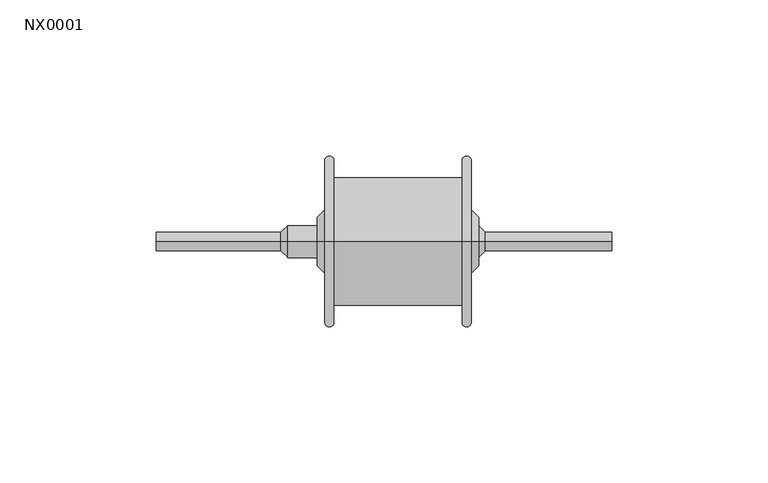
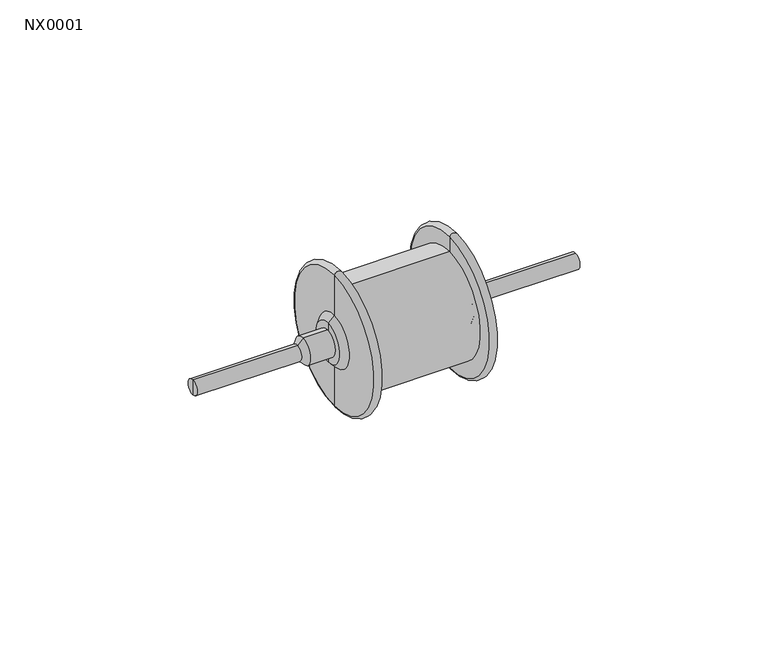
"""IFC4 building model written with IfcOpenShell, lengths in millimetres: proxy geometry, КНС_ИскровойПромежуток_DKC : NX0001."""

from ifc_helpers import new_model, si_unit, point, frame, origin, place, context, project, spatial, polyline, circle_curve, ellipse_curve, trimmed, source, transform, mapped, element, save
from ifc_brep_helpers import plane_surface, cylinder_surface, revolved_surface, advanced_brep


def nx0001_94aa2309(model_context):
    return source(origin(), model_context, "Body", "AdvancedBrep", [
        advanced_brep(
        [(100.9668153, 0.0, -10.2056236), (100.9668153, 0.0, 10.2056236), (103.3075587, 0.0, 7.8648802), (103.3075587, 0.0, -7.8648802), (100.9668153, 0.0, -26.4055674), (100.9668153, 0.0, 26.4055674), (97.9987027, 0.0, -26.4055674), (97.9987027, 0.0, 26.4055674), (97.9987027, 0.0, -20.5005938), (97.9987027, 0.0, 20.5005938), (56.9821702, 0.0, -20.5005938), (56.9821702, 0.0, 20.5005938), (56.9821702, 0.0, -26.4055674), (56.9821702, 0.0, 26.4055674), (54.0140576, 0.0, -26.4055674), (54.0140576, 0.0, 26.4055674), (54.0140576, 0.0, -10.2056236), (54.0140576, 0.0, 10.2056236), (51.6733142, 0.0, -7.8648802), (51.6733142, 0.0, 7.8648802), (51.6733142, 0.0, 0.0), (103.3075587, 0.0, 0.0)],
        [
            (0, 1, circle_curve(frame((100.9668153, 0.0, 0.0), z_axis=(1.0, 0.0, 0.0), x_axis=(0.0, 0.0, 1.0)), 10.2056236)),
            (1, 2),
            (2, 3, circle_curve(frame((103.3075587, 0.0, 0.0), z_axis=(-1.0, 0.0, 0.0), x_axis=(0.0, 0.0, 1.0)), 7.8648802)),
            (3, 0),
            (1, 0, circle_curve(frame((100.9668153, 0.0, 0.0), z_axis=(1.0, 0.0, 0.0), x_axis=(0.0, 0.0, 1.0)), 10.2056236)),
            (3, 2, circle_curve(frame((103.3075587, 0.0, 0.0), z_axis=(-1.0, 0.0, 0.0), x_axis=(0.0, 0.0, 1.0)), 7.8648802)),
            (4, 5, circle_curve(frame((100.9668153, 0.0, 0.0), z_axis=(1.0, 0.0, 0.0), x_axis=(0.0, 0.0, 1.0)), 26.4055674)),
            (5, 1),
            (0, 4),
            (5, 4, circle_curve(frame((100.9668153, 0.0, 0.0), z_axis=(1.0, 0.0, 0.0), x_axis=(0.0, 0.0, 1.0)), 26.4055674)),
            (6, 7, circle_curve(frame((97.9987027, 0.0, 0.0), z_axis=(1.0, 0.0, 0.0), x_axis=(0.0, 0.0, 1.0)), 26.4055674)),
            (7, 5, circle_curve(frame((99.482759, 0.0, 25.9475608), z_axis=(0.0, 1.0, 0.0), x_axis=(1.0, 0.0, 0.0)), 1.5531236)),
            (4, 6, circle_curve(frame((99.482759, 0.0, -25.9475608), z_axis=(0.0, 1.0, 0.0), x_axis=(1.0, 0.0, 0.0)), 1.5531236)),
            (7, 6, circle_curve(frame((97.9987027, 0.0, 0.0), z_axis=(1.0, 0.0, 0.0), x_axis=(0.0, 0.0, 1.0)), 26.4055674)),
            (8, 9, circle_curve(frame((97.9987027, 0.0, 0.0), z_axis=(1.0, 0.0, 0.0), x_axis=(0.0, 0.0, 1.0)), 20.5005938)),
            (9, 7),
            (6, 8),
            (9, 8, circle_curve(frame((97.9987027, 0.0, 0.0), z_axis=(1.0, 0.0, 0.0), x_axis=(0.0, 0.0, 1.0)), 20.5005938)),
            (10, 11, circle_curve(frame((56.9821702, 0.0, 0.0), z_axis=(1.0, 0.0, 0.0), x_axis=(0.0, 0.0, 1.0)), 20.5005938)),
            (11, 9),
            (8, 10),
            (11, 10, circle_curve(frame((56.9821702, 0.0, 0.0), z_axis=(1.0, 0.0, 0.0), x_axis=(0.0, 0.0, 1.0)), 20.5005938)),
            (12, 13, circle_curve(frame((56.9821702, 0.0, 0.0), z_axis=(1.0, 0.0, 0.0), x_axis=(0.0, 0.0, 1.0)), 26.4055674)),
            (13, 11),
            (10, 12),
            (13, 12, circle_curve(frame((56.9821702, 0.0, 0.0), z_axis=(1.0, 0.0, 0.0), x_axis=(0.0, 0.0, 1.0)), 26.4055674)),
            (14, 15, circle_curve(frame((54.0140576, 0.0, 0.0), z_axis=(1.0, 0.0, 0.0), x_axis=(0.0, 0.0, 1.0)), 26.4055674)),
            (15, 13, circle_curve(frame((55.4981139, 0.0, 25.9475608), z_axis=(0.0, 1.0, 0.0), x_axis=(-1.0, 0.0, 0.0)), 1.5531236)),
            (12, 14, circle_curve(frame((55.4981139, 0.0, -25.9475608), z_axis=(0.0, 1.0, 0.0), x_axis=(-1.0, 0.0, 0.0)), 1.5531236)),
            (15, 14, circle_curve(frame((54.0140576, 0.0, 0.0), z_axis=(1.0, 0.0, 0.0), x_axis=(0.0, 0.0, 1.0)), 26.4055674)),
            (16, 17, circle_curve(frame((54.0140576, 0.0, 0.0), z_axis=(1.0, 0.0, 0.0), x_axis=(0.0, 0.0, 1.0)), 10.2056236)),
            (17, 15),
            (14, 16),
            (17, 16, circle_curve(frame((54.0140576, 0.0, 0.0), z_axis=(1.0, 0.0, 0.0), x_axis=(0.0, 0.0, 1.0)), 10.2056236)),
            (18, 19, circle_curve(frame((51.6733142, 0.0, 0.0), z_axis=(1.0, 0.0, 0.0), x_axis=(0.0, 0.0, 1.0)), 7.8648802)),
            (19, 17),
            (16, 18),
            (19, 18, circle_curve(frame((51.6733142, 0.0, 0.0), z_axis=(1.0, 0.0, 0.0), x_axis=(0.0, 0.0, 1.0)), 7.8648802)),
            (20, 19),
            (18, 20),
            (2, 21),
            (21, 3),
        ],
        [
            revolved_surface(polyline([(103.3075587, 0.0, 7.8648802), (100.9668153, 0.0, 10.2056236)]), (-1351.9903051, 0.0, 0.0), (-1.0, 0.0, 0.0)),
            plane_surface(frame((100.9668153, 0.0, 0.0), z_axis=(1.0, 0.0, 0.0), x_axis=(0.0, 0.0, 1.0))),
            revolved_surface(trimmed(ellipse_curve(frame((99.482759, 0.0, 25.9475608), z_axis=(0.0, -1.0, 0.0), x_axis=(1.0, 0.0, 0.0)), 1.5531236, 1.5531236), [point((100.9668153, 0.0, 26.4055674))], [point((97.9987027, 0.0, 26.4055674))], True, "CARTESIAN"), (-1351.9903051, 0.0, 0.0), (-1.0, 0.0, 0.0)),
            plane_surface(frame((97.9987027, 0.0, 0.0), z_axis=(-1.0, 0.0, 0.0), x_axis=(0.0, 0.0, 1.0))),
            cylinder_surface(frame((-1351.9903051, 0.0, 0.0), z_axis=(-1.0, 0.0, 0.0), x_axis=(0.0, 0.0, 1.0)), 20.5005938),
            plane_surface(frame((56.9821702, 0.0, 0.0), z_axis=(1.0, 0.0, 0.0), x_axis=(0.0, 0.0, 1.0))),
            revolved_surface(trimmed(ellipse_curve(frame((55.4981139, 0.0, 25.9475608), z_axis=(0.0, -1.0, 0.0), x_axis=(-1.0, 0.0, 0.0)), 1.5531236, 1.5531236), [point((56.9821702, 0.0, 26.4055674))], [point((54.0140576, 0.0, 26.4055674))], True, "CARTESIAN"), (-1351.9903051, 0.0, 0.0), (-1.0, 0.0, 0.0)),
            plane_surface(frame((54.0140576, 0.0, 0.0), z_axis=(-1.0, 0.0, 0.0), x_axis=(0.0, 0.0, 1.0))),
            revolved_surface(polyline([(54.0140576, 0.0, 10.2056236), (51.6733142, 0.0, 7.8648802)]), (-1351.9903051, 0.0, 0.0), (-1.0, 0.0, 0.0)),
            plane_surface(frame((51.6733142, 0.0, 0.0), z_axis=(-1.0, 0.0, 0.0), x_axis=(0.0, 0.0, 1.0))),
            plane_surface(frame((103.3075587, 0.0, 0.0), z_axis=(1.0, 0.0, 0.0), x_axis=(0.0, 0.0, 1.0))),
        ],
        [
            (0, [[1, 2, 3, 4]]),
            (0, [[5, -4, 6, -2]]),
            (1, [[7, 8, -1, 9]]),
            (1, [[10, -9, -5, -8]]),
            (2, [[11, 12, -7, 13]]),
            (2, [[14, -13, -10, -12]]),
            (3, [[15, 16, -11, 17]]),
            (3, [[18, -17, -14, -16]]),
            (4, [[19, 20, -15, 21]]),
            (4, [[22, -21, -18, -20]]),
            (5, [[23, 24, -19, 25]]),
            (5, [[26, -25, -22, -24]]),
            (6, [[27, 28, -23, 29]]),
            (6, [[30, -29, -26, -28]]),
            (7, [[31, 32, -27, 33]]),
            (7, [[34, -33, -30, -32]]),
            (8, [[35, 36, -31, 37]]),
            (8, [[38, -37, -34, -36]]),
            (9, [[39, -35, 40]]),
            (9, [[-40, -38, -39]]),
            (10, [[-3, 41, 42]]),
            (10, [[-6, -42, -41]]),
        ],
    ),
        advanced_brep(
        [(0.0, 0.0, 0.0), (0.0, 0.0, 3.0), (0.0, 0.0, -3.0), (146.0, 0.0, -3.0), (146.0, 0.0, 3.0), (146.0, 0.0, 0.0), (105.4454372, 0.0, -3.0), (105.4454372, 0.0, 3.0), (103.3075587, 0.0, -5.1378785), (103.3075587, 0.0, 5.1378785), (42.1378785, 0.0, -5.1378785), (42.1378785, 0.0, 5.1378785), (40.0, 0.0, -3.0), (40.0, 0.0, 3.0)],
        [
            (0, 1),
            (1, 2, circle_curve(frame((0.0, 0.0, 0.0), z_axis=(-1.0, 0.0, 0.0), x_axis=(0.0, 0.0, 1.0)), 3.0)),
            (2, 0),
            (2, 1, circle_curve(frame((0.0, 0.0, 0.0), z_axis=(-1.0, 0.0, 0.0), x_axis=(0.0, 0.0, 1.0)), 3.0)),
            (3, 4, circle_curve(frame((146.0, 0.0, 0.0), z_axis=(1.0, 0.0, 0.0), x_axis=(0.0, 0.0, 1.0)), 3.0)),
            (4, 5),
            (5, 3),
            (4, 3, circle_curve(frame((146.0, 0.0, 0.0), z_axis=(1.0, 0.0, 0.0), x_axis=(0.0, 0.0, 1.0)), 3.0)),
            (6, 7, circle_curve(frame((105.4454372, 0.0, 0.0), z_axis=(1.0, 0.0, 0.0), x_axis=(0.0, 0.0, 1.0)), 3.0)),
            (7, 4),
            (3, 6),
            (7, 6, circle_curve(frame((105.4454372, 0.0, 0.0), z_axis=(1.0, 0.0, 0.0), x_axis=(0.0, 0.0, 1.0)), 3.0)),
            (8, 9, circle_curve(frame((103.3075587, 0.0, 0.0), z_axis=(1.0, 0.0, 0.0), x_axis=(0.0, 0.0, 1.0)), 5.1378785)),
            (9, 7),
            (6, 8),
            (9, 8, circle_curve(frame((103.3075587, 0.0, 0.0), z_axis=(1.0, 0.0, 0.0), x_axis=(0.0, 0.0, 1.0)), 5.1378785)),
            (10, 11, circle_curve(frame((42.1378785, 0.0, 0.0), z_axis=(1.0, 0.0, 0.0), x_axis=(0.0, 0.0, 1.0)), 5.1378785)),
            (11, 9),
            (8, 10),
            (11, 10, circle_curve(frame((42.1378785, 0.0, 0.0), z_axis=(1.0, 0.0, 0.0), x_axis=(0.0, 0.0, 1.0)), 5.1378785)),
            (12, 13, circle_curve(frame((40.0, 0.0, 0.0), z_axis=(1.0, 0.0, 0.0), x_axis=(0.0, 0.0, 1.0)), 3.0)),
            (13, 11),
            (10, 12),
            (13, 12, circle_curve(frame((40.0, 0.0, 0.0), z_axis=(1.0, 0.0, 0.0), x_axis=(0.0, 0.0, 1.0)), 3.0)),
            (1, 13),
            (12, 2),
        ],
        [
            plane_surface(frame((0.0, 0.0, 0.0), z_axis=(-1.0, 0.0, 0.0), x_axis=(0.0, 0.0, 1.0))),
            plane_surface(frame((146.0, 0.0, 0.0), z_axis=(1.0, 0.0, 0.0), x_axis=(0.0, 0.0, 1.0))),
            cylinder_surface(frame((-1351.9903051, 0.0, 0.0), z_axis=(-1.0, 0.0, 0.0), x_axis=(0.0, 0.0, 1.0)), 3.0),
            revolved_surface(polyline([(105.4454372, 0.0, 3.0), (103.3075587, 0.0, 5.1378785)]), (-1351.9903051, 0.0, 0.0), (-1.0, 0.0, 0.0)),
            cylinder_surface(frame((-1351.9903051, 0.0, 0.0), z_axis=(-1.0, 0.0, 0.0), x_axis=(0.0, 0.0, 1.0)), 5.1378785),
            revolved_surface(polyline([(42.1378785, 0.0, 5.1378785), (40.0, 0.0, 3.0)]), (-1351.9903051, 0.0, 0.0), (-1.0, 0.0, 0.0)),
        ],
        [
            (0, [[1, 2, 3]]),
            (0, [[-3, 4, -1]]),
            (1, [[5, 6, 7]]),
            (1, [[8, -7, -6]]),
            (2, [[9, 10, -5, 11]]),
            (2, [[12, -11, -8, -10]]),
            (3, [[13, 14, -9, 15]]),
            (3, [[16, -15, -12, -14]]),
            (4, [[17, 18, -13, 19]]),
            (4, [[20, -19, -16, -18]]),
            (5, [[21, 22, -17, 23]]),
            (5, [[24, -23, -20, -22]]),
            (2, [[-2, 25, -21, 26]]),
            (2, [[-4, -26, -24, -25]]),
        ],
    ),
    ])


if __name__ == "__main__":
    model = new_model("IFC4")
    model_context = context("Model", 3, world=origin())
    ifc_project = project(units=[si_unit("LENGTHUNIT", "METRE", prefix="MILLI")], contexts=[model_context])
    site = spatial("IfcSite", under=ifc_project)
    building = spatial("IfcBuilding", under=site)
    placement = place(None, origin())
    nx0001_shape = nx0001_94aa2309(model_context)
    element("IfcBuildingElementProxy", 1, Name="КНС_ИскровойПромежуток_DKC : NX0001", ObjectType="КНС_ИскровойПромежуток_DKC : NX0001", at=placement, inside=building, context=model_context, shape_type="MappedRepresentation", body=[
        mapped(nx0001_shape, transform((0.0, 0.0, 0.0), x_axis=(1.0, 0.0, 0.0), y_axis=(0.0, 1.0, 0.0), z_axis=(0.0, 0.0, 1.0))),
    ])
    save(model, "model.ifc")
